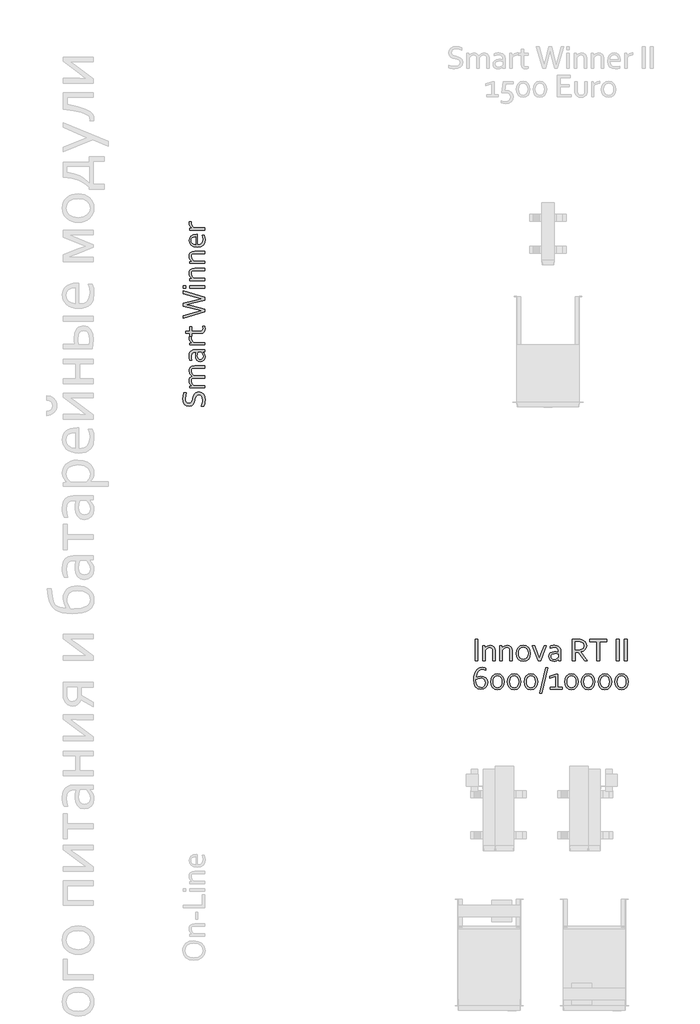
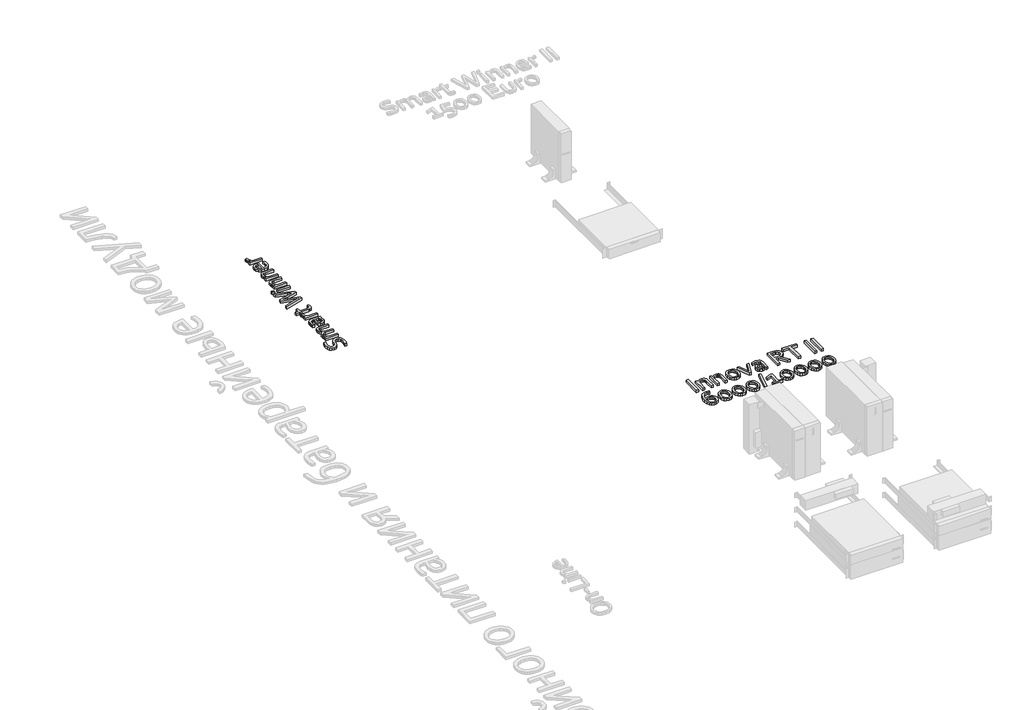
# One storey, part 4 of 10: 2 proxies.
"""IFC4 building model written with IfcOpenShell, lengths in millimetres."""

import ifcopenshell
import ifcopenshell.guid

model = None  # the IFC model being written
_history = None  # IfcOwnerHistory: only IFC2X3 demands one
_inside = {}  # id of a spatial element -> (the spatial element, [elements in it])
_under = {}  # id of a project, library or spatial element -> (it, [spatial elements below it])
_declared = {}  # id of a project -> (the project, [libraries it declares])
_typed = {}  # id of a type object -> (the type object, [elements of that type])
_made_of = {}  # id of a material, layer set ... -> (it, [elements and type objects made of it])


def new_model(schema):
    """Start an empty IFC model of exactly this schema.

    Asked for "IFC4X3", IfcOpenShell would pick the latest addendum, in which some entities
    have other attributes; the version numbers below select the first issue.
    IFC2X3 requires an IfcOwnerHistory on every rooted entity: one is made here for all.
    """
    global model, _history
    if schema == "IFC4X3":
        model = ifcopenshell.file(schema_version=(4, 3, 0, 0))
    else:
        model = ifcopenshell.file(schema=schema)
    _inside.clear()
    _under.clear()
    _declared.clear()
    _typed.clear()
    _made_of.clear()
    _history = None
    if model.schema == "IFC2X3":
        org = make("IfcOrganization", Name="unknown")
        user = make(
            "IfcPersonAndOrganization",
            ThePerson=make("IfcPerson", FamilyName="unknown"),
            TheOrganization=org,
        )
        app = make(
            "IfcApplication",
            ApplicationDeveloper=org,
            Version="unknown",
            ApplicationFullName="unknown",
            ApplicationIdentifier="unknown",
        )
        _history = make(
            "IfcOwnerHistory",
            OwningUser=user,
            OwningApplication=app,
            ChangeAction="ADDED",
            CreationDate=0,
        )
    return model


def make(cls, **values):
    """One entity of the class cls with the attributes given. An attribute that is None is left unset."""
    return model.create_entity(
        cls, **{name: value for name, value in values.items() if value is not None}
    )


def rooted(cls, **values):
    """An entity with a GlobalId (a new one), such as an element, a storey or a relation."""
    return make(cls, GlobalId=ifcopenshell.guid.new(), OwnerHistory=_history, **values)


def si_unit(unit_type, name, prefix=None):
    """IfcSIUnit, for example si_unit("LENGTHUNIT", "METRE", prefix="MILLI")."""
    return make("IfcSIUnit", UnitType=unit_type, Prefix=prefix, Name=name)


def assignment(units):
    """IfcUnitAssignment: the units of a project."""
    return None if units is None else make("IfcUnitAssignment", Units=units)


def point(xyz):
    """IfcCartesianPoint."""
    return None if xyz is None else make("IfcCartesianPoint", Coordinates=xyz)


def direction(xyz):
    """IfcDirection."""
    return None if xyz is None else make("IfcDirection", DirectionRatios=xyz)


def frame(location, z_axis=None, x_axis=None):
    """IfcAxis2Placement3D, a coordinate frame: its origin and axes. An axis left out is left unset."""
    return make(
        "IfcAxis2Placement3D",
        Location=point(location),
        Axis=direction(z_axis),
        RefDirection=direction(x_axis),
    )


def origin():
    """The frame at (0, 0, 0) with its axes left unset."""
    return frame((0.0, 0.0, 0.0))


def origin_with_axes():
    """The frame at (0, 0, 0) with the z axis (0, 0, 1) and the x axis (1, 0, 0) written out."""
    return frame((0.0, 0.0, 0.0), z_axis=(0.0, 0.0, 1.0), x_axis=(1.0, 0.0, 0.0))


def place(relative_to, where):
    """IfcLocalPlacement: puts the frame where relative to a parent placement (None: the world)."""
    return make(
        "IfcLocalPlacement", PlacementRelTo=relative_to, RelativePlacement=where
    )


def context(
    kind, dimensions, precision=None, world=None, true_north=None, identifier=None
):
    """IfcGeometricRepresentationContext, for example the 3D "Model" context."""
    return make(
        "IfcGeometricRepresentationContext",
        ContextIdentifier=identifier,
        ContextType=kind,
        CoordinateSpaceDimension=dimensions,
        Precision=precision,
        WorldCoordinateSystem=world,
        TrueNorth=true_north,
    )


def project(units=None, contexts=None):
    """IfcProject with its units and contexts."""
    return rooted(
        "IfcProject",
        Name="project",
        RepresentationContexts=contexts,
        UnitsInContext=assignment(units),
    )


def spatial(cls, under=None, at=None, **own):
    """A site, building, storey or space (cls), placed at a placement, below another one or the project."""
    s = rooted(cls, ObjectPlacement=at, **own)
    if under is not None:
        _under.setdefault(under.id(), (under, []))[1].append(s)
    return s


def polyline(points):
    """IfcPolyline through the points."""
    return make("IfcPolyline", Points=[point(p) for p in points])


def outline(outer, holes=None, kind="AREA"):
    """IfcArbitraryClosedProfileDef: a profile drawn as a closed curve; with holes, ...WithVoids."""
    if holes is None:
        return make("IfcArbitraryClosedProfileDef", ProfileType=kind, OuterCurve=outer)
    return make(
        "IfcArbitraryProfileDefWithVoids",
        ProfileType=kind,
        OuterCurve=outer,
        InnerCurves=holes,
    )


def extrude(swept, where, along, depth):
    """IfcExtrudedAreaSolid: the profile swept, set in the frame where, extruded along a direction by depth."""
    return make(
        "IfcExtrudedAreaSolid",
        SweptArea=swept,
        Position=where,
        ExtrudedDirection=direction(along),
        Depth=depth,
    )


def shape(context_of_items, identifier, shape_type, items):
    """IfcShapeRepresentation: the items that make up one representation, for example the "Body"."""
    return make(
        "IfcShapeRepresentation",
        ContextOfItems=context_of_items,
        RepresentationIdentifier=identifier,
        RepresentationType=shape_type,
        Items=items,
    )


def made_of(thing, what):
    """Note that an element or type object is made of a material, layer set ...; save() writes the relation."""
    if what is not None:
        _made_of.setdefault(what.id(), (what, []))[1].append(thing)
    return thing


def element(
    cls,
    number,
    at=None,
    inside=None,
    cuts=None,
    type_object=None,
    material=None,
    context=None,
    identifier="Body",
    shape_type=None,
    held_by="IfcProductDefinitionShape",
    body=None,
    shapes=None,
    **own,
):
    """One element of the class cls, such as IfcWall. Its Tag is "e" and its number.

    at: its placement. inside: the storey or other place that contains it. cuts: it is an
    opening in that element (IfcRelVoidsElement). A single representation is given by context,
    identifier, shape_type and body (its items); several are given by shapes. held_by: the class
    of the entity that holds the representations. save() writes the other relations.
    """
    e = rooted(cls, Tag="e%d" % number, ObjectPlacement=at, **own)
    if body is not None:
        shapes = [shape(context, identifier, shape_type, body)]
    if shapes is not None:
        e.Representation = make(held_by, Representations=shapes)
    if inside is not None:
        _inside.setdefault(inside.id(), (inside, []))[1].append(e)
    if cuts is not None:
        rooted(
            "IfcRelVoidsElement", RelatingBuildingElement=cuts, RelatedOpeningElement=e
        )
    if type_object is not None:
        _typed.setdefault(type_object.id(), (type_object, []))[1].append(e)
    return made_of(e, material)


def aggregate(whole, parts):
    """IfcRelAggregates: a whole, such as a stair, and the parts it consists of."""
    return rooted("IfcRelAggregates", RelatingObject=whole, RelatedObjects=parts)


def save(model, path):
    """Write the relations noted so far, then the file.

    IfcRelAggregates (storeys below a building ...), IfcRelContainedInSpatialStructure (elements
    in a storey), IfcRelDefinesByType, IfcRelAssociatesMaterial and IfcRelDeclares: one each for
    every whole, place, type object, material and project.
    """
    for whole, parts in _under.values():
        aggregate(whole, parts)
    for where, things in _inside.values():
        rooted(
            "IfcRelContainedInSpatialStructure",
            RelatedElements=things,
            RelatingStructure=where,
        )
    for kind, things in _typed.values():
        rooted("IfcRelDefinesByType", RelatedObjects=things, RelatingType=kind)
    for what, things in _made_of.values():
        rooted("IfcRelAssociatesMaterial", RelatedObjects=things, RelatingMaterial=what)
    for by, libraries in _declared.values():
        rooted("IfcRelDeclares", RelatingContext=by, RelatedDefinitions=libraries)
    model.write(path)


model = new_model("IFC4")

# Units and contexts
model_context = context("Model", 3, world=origin())
ifc_project = project(units=[si_unit("LENGTHUNIT", "METRE", prefix="MILLI")], contexts=[model_context])

# Site, building, storey
site = spatial("IfcSite", under=ifc_project)
building = spatial("IfcBuilding", under=site)
storey = spatial("IfcBuildingStorey", under=building, Name="Этаж 01", Elevation=0.0)

# Proxies
placement = place(None, origin())
element("IfcBuildingElementProxy", 1, Name="150 мм Corbel", ObjectType="150 мм Corbel", at=placement, inside=storey, context=model_context, shape_type="SweptSolid", body=[
    extrude(outline(polyline([(2416.0252514, -1532.6838403), (2427.0284704, -1529.9494419), (2434.2035317, -1522.6212543), (2438.8410714, -1511.9461631), (2442.2317253, -1499.2585547), (2446.9786409, -1481.7802804), (2454.1537022, -1466.4895247), (2466.0756791, -1455.639432), (2484.9320902, -1451.4831465), (2505.1885132, -1455.9675598), (2519.210508, -1468.3489156), (2527.3480776, -1486.8990741), (2529.9949752, -1510.2398985), (2529.273094, -1522.1618754), (2527.3262024, -1533.82135), (2524.5261784, -1543.8620608), (2521.4199019, -1550.9277462), (2504.7947599, -1550.9277462), (2508.2291642, -1541.8495436), (2510.8760618, -1531.4150795), (2512.5823264, -1520.5431116), (2513.1948316, -1510.2398985), (2511.8604452, -1495.2553955), (2507.3979071, -1482.7646638), (2498.8884594, -1474.2333409), (2485.3695939, -1471.083314), (2474.1913734, -1473.8833379), (2466.9069362, -1481.3427766), (2462.2256462, -1492.1053686), (2458.813117, -1504.9461033), (2454.2630781, -1522.3587521), (2447.1973928, -1537.5182566), (2435.5597933, -1548.2370982), (2417.381513, -1552.2840078), (2397.5625937, -1548.0402215), (2383.8249763, -1536.5557484), (2375.7967827, -1519.9962319), (2373.1936355, -1500.1335622), (2375.4905301, -1477.7771212), (2381.4624561, -1458.789459), (2398.3938508, -1458.789459), (2392.4000496, -1478.0177482), (2389.993779, -1499.2585547), (2391.8312947, -1514.0680562), (2397.0594644, -1524.4806452), (2405.2845347, -1530.6494479), (2416.0252514, -1532.6838403)])), origin_with_axes(), (0.0, 0.0, 1.0), 20.0),
    extrude(outline(polyline([(2527.1949512, -1336.6821657), (2527.1949512, -1353.4823092), (2458.113111, -1353.4823092), (2446.1911342, -1355.0135723), (2438.097315, -1359.4761104), (2433.4597754, -1366.4542951), (2431.9941379, -1375.5324976), (2437.2223075, -1392.7482697), (2451.5943053, -1406.6827638), (2527.1949512, -1406.6827638), (2527.1949512, -1423.4829073), (2420.7940422, -1423.4829073), (2420.7940422, -1410.0515425), (2435.5816685, -1406.7265141), (2428.7128598, -1400.0327069), (2423.0909368, -1392.4420171), (2419.3284047, -1383.2325634), (2417.9940183, -1372.2512196), (2419.4213742, -1361.4011269), (2423.703442, -1352.5635514), (2439.2566999, -1340.4884482), (2423.6378165, -1323.7976806), (2417.9940183, -1302.5131238), (2419.5690317, -1290.5692717), (2425.3440811, -1278.9754227), (2436.9379301, -1270.1815975), (2455.9693427, -1266.6815676), (2527.1949512, -1266.6815676), (2527.1949512, -1283.4817112), (2458.113111, -1283.4817112), (2446.1911342, -1285.0129742), (2438.097315, -1289.4536372), (2433.4597754, -1296.4099466), (2431.9941379, -1305.4881492), (2437.2223075, -1322.7257965), (2451.5943053, -1336.6821657), (2527.1949512, -1336.6821657)])), origin_with_axes(), (0.0, 0.0, 1.0), 20.0),
    extrude(outline(polyline([(2515.4261007, -1170.9557498), (2520.7417711, -1176.7526743), (2525.4668115, -1184.1683626), (2528.7699647, -1193.3559411), (2529.9949752, -1203.987282), (2527.7418309, -1218.0092768), (2521.1136493, -1228.9687454), (2510.4604333, -1236.1219315), (2496.2196866, -1238.6813284), (2482.219567, -1235.8375541), (2471.7413525, -1227.8749861), (2465.1131708, -1215.5592558), (2462.794401, -1199.655995), (2464.2819137, -1184.4089897), (2467.6506925, -1171.918258), (2460.0381275, -1171.4807542), (2451.7036813, -1172.0495091), (2445.3380019, -1173.9745255), (2435.7785452, -1183.2496048), (2431.9941379, -1200.5310024), (2433.4816506, -1215.7342573), (2437.5941857, -1229.8875033), (2423.9003187, -1229.8875033), (2421.5159233, -1223.5655742), (2419.6127821, -1215.8873836), (2418.4096468, -1207.3779359), (2417.9940183, -1198.3872341), (2419.4213742, -1183.7527341), (2423.703442, -1172.1370098), (2430.3370925, -1163.4744358), (2438.8191962, -1157.6993865), (2446.7161387, -1155.3806167), (2456.1880946, -1154.6806107), (2527.1949512, -1154.6806107), (2527.1949512, -1169.0744837), (2515.4261007, -1170.9557498)]), holes=[polyline([(2480.7758047, -1171.4807542), (2478.1726574, -1183.0964785), (2476.7945206, -1197.8622296), (2481.5633114, -1215.5155055), (2487.6118006, -1220.289765), (2496.2196866, -1221.8811849), (2504.9697614, -1220.2842962), (2511.1604393, -1215.9092588), (2514.7917203, -1209.3248276), (2515.9948556, -1201.187258), (2514.3542165, -1190.5996676), (2510.4385581, -1181.8933432), (2505.8885192, -1175.4182879), (2502.3447389, -1171.4807542), (2480.7758047, -1171.4807542)])]), origin_with_axes(), (0.0, 0.0, 1.0), 20.0),
    extrude(outline(polyline([(2431.9941379, -1063.2860798), (2433.1535228, -1076.7174446), (2436.6754279, -1087.8737899), (2442.5161028, -1097.2801203), (2450.7192979, -1104.2801801), (2527.1949512, -1104.2801801), (2527.1949512, -1121.0803236), (2420.7940422, -1121.0803236), (2420.7940422, -1108.0864626), (2437.7254368, -1104.8489349), (2429.9816207, -1098.1988781), (2423.703442, -1089.7331808), (2419.5034062, -1079.4080926), (2417.9940183, -1067.6173668), (2418.0377686, -1065.3423474), (2418.1690198, -1063.2860798), (2431.9941379, -1063.2860798)])), origin_with_axes(), (0.0, 0.0, 1.0), 20.0),
    extrude(outline(polyline([(2527.5887046, -989.6979511), (2529.1637181, -996.5230094), (2529.9949752, -1007.5043533), (2527.8949572, -1021.985727), (2521.901156, -1032.0264378), (2512.4729505, -1037.9327382), (2500.1572202, -1039.8796299), (2434.7941618, -1039.8796299), (2434.7941618, -1060.3985552), (2420.7940422, -1060.3985552), (2420.7940422, -1039.8796299), (2392.7938029, -1039.8796299), (2392.7938029, -1023.0794863), (2420.7940422, -1023.0794863), (2420.7940422, -991.2729646), (2434.7941618, -991.2729646), (2434.7941618, -1023.0794863), (2498.4072053, -1023.0794863), (2505.4291403, -1022.0294774), (2511.0073129, -1018.6825738), (2514.6823443, -1012.7981485), (2515.9948556, -1004.1355745), (2515.4261007, -996.8073869), (2513.9823384, -989.6979511), (2527.5887046, -989.6979511)])), origin_with_axes(), (0.0, 0.0, 1.0), 20.0),
    extrude(outline(polyline([(2400.9751228, -836.9216458), (2437.3754338, -845.5842198), (2527.1949512, -869.0344202), (2527.1949512, -887.7595802), (2375.9936594, -933.4787208), (2375.9936594, -913.8785533), (2464.7194175, -889.2033425), (2503.1322457, -879.1845069), (2482.6789459, -873.9125869), (2464.9381693, -869.2969224), (2375.9936594, -846.6779792), (2375.9936594, -827.0778117), (2464.9381693, -805.0276233), (2503.1322457, -795.8400448), (2464.7194175, -785.1212033), (2375.9936594, -759.8772376), (2375.9936594, -740.2770701), (2527.1949512, -786.6962167), (2527.1949512, -805.4213767), (2437.3754338, -828.3903229), (2400.9751228, -836.9216458)])), origin_with_axes(), (0.0, 0.0, 1.0), 20.0),
    extrude(outline(polyline([(2395.5938269, -720.6769027), (2375.9936594, -720.6769027), (2375.9936594, -703.8767591), (2395.5938269, -703.8767591), (2395.5938269, -720.6769027)])), origin_with_axes(), (0.0, 0.0, 1.0), 20.0),
    extrude(outline(polyline([(2527.1949512, -720.6769027), (2420.7940422, -720.6769027), (2420.7940422, -703.8767591), (2527.1949512, -703.8767591), (2527.1949512, -720.6769027)])), origin_with_axes(), (0.0, 0.0, 1.0), 20.0),
    extrude(outline(polyline([(2435.5816685, -650.7638053), (2428.7128598, -644.0481229), (2423.0909368, -636.1949309), (2419.3284047, -626.6792246), (2417.9940183, -615.4135033), (2420.0065355, -601.807137), (2426.503466, -590.803918), (2438.2066909, -583.4101049), (2455.9693427, -580.6757065), (2527.1949512, -580.6757065), (2527.1949512, -597.47585), (2458.113111, -597.47585), (2446.1528526, -598.821174), (2438.097315, -602.857146), (2433.5199322, -609.4634525), (2431.9941379, -618.5197798), (2437.2223075, -636.0636797), (2451.5943053, -650.6763046), (2527.1949512, -650.6763046), (2527.1949512, -667.4764481), (2420.7940422, -667.4764481), (2420.7940422, -654.1325841), (2435.5816685, -650.7638053)])), origin_with_axes(), (0.0, 0.0, 1.0), 20.0),
    extrude(outline(polyline([(2435.5816685, -530.3627766), (2428.7128598, -523.6470943), (2423.0909368, -515.7939022), (2419.3284047, -506.2781959), (2417.9940183, -495.0124746), (2420.0065355, -481.4061084), (2426.503466, -470.4028894), (2438.2066909, -463.0090762), (2455.9693427, -460.2746778), (2527.1949512, -460.2746778), (2527.1949512, -477.0748214), (2458.113111, -477.0748214), (2446.1528526, -478.4201454), (2438.097315, -482.4561173), (2433.5199322, -489.0624238), (2431.9941379, -498.1187512), (2437.2223075, -515.662651), (2451.5943053, -530.2752759), (2527.1949512, -530.2752759), (2527.1949512, -547.0754194), (2420.7940422, -547.0754194), (2420.7940422, -533.7315554), (2435.5816685, -530.3627766)])), origin_with_axes(), (0.0, 0.0, 1.0), 20.0),
    extrude(outline(polyline([(2515.9948556, -376.9302157), (2514.529218, -361.158206), (2510.3948077, -346.9612097), (2524.2199258, -346.9612097), (2528.4418369, -361.0925804), (2529.9949752, -379.1614848), (2527.0855753, -400.6210431), (2517.6792449, -417.6399386), (2500.7040999, -428.4462809), (2475.438259, -432.2744386), (2450.1942934, -428.2931546), (2432.3441409, -417.7055641), (2421.5815489, -402.480434), (2417.9940183, -384.4990304), (2420.9252933, -368.0051395), (2430.1566222, -354.7050259), (2446.409886, -345.8018248), (2470.2757149, -342.5424219), (2472.5288592, -342.5424219), (2476.7945206, -342.6736731), (2476.7945206, -416.3930529), (2494.9946761, -413.3086516), (2507.1135297, -404.8867046), (2513.8729624, -392.3740977), (2515.9948556, -376.9302157)]), holes=[polyline([(2431.9941379, -385.2427868), (2434.4222836, -396.7491351), (2441.0285901, -406.0242143), (2450.8067986, -412.4555193), (2462.794401, -415.4742951), (2462.794401, -359.4738166), (2450.6974227, -361.158206), (2440.9192141, -366.1238734), (2434.3785332, -374.1739422), (2431.9941379, -385.2427868)])]), origin_with_axes(), (0.0, 0.0, 1.0), 20.0),
    extrude(outline(polyline([(2431.9941379, -254.0791661), (2433.1535228, -267.5105309), (2436.6754279, -278.6668762), (2442.5161028, -288.0732066), (2450.7192979, -295.0732664), (2527.1949512, -295.0732664), (2527.1949512, -311.8734099), (2420.7940422, -311.8734099), (2420.7940422, -298.8795489), (2437.7254368, -295.6420212), (2429.9816207, -288.9919644), (2423.703442, -280.5262671), (2419.5034062, -270.2011789), (2417.9940183, -258.4104531), (2418.0377686, -256.1354337), (2418.1690198, -254.0791661), (2431.9941379, -254.0791661)])), origin_with_axes(), (0.0, 0.0, 1.0), 20.0),
])
element("IfcBuildingElementProxy", 2, Name="150 мм Corbel", ObjectType="150 мм Corbel", at=placement, inside=storey, context=model_context, shape_type="SweptSolid", body=[
    extrude(outline(polyline([(4431.4959486, -3344.4864996), (4431.4959486, -3193.2852077), (4451.096116, -3193.2852077), (4451.096116, -3344.4864996), (4431.4959486, -3344.4864996)])), origin_with_axes(), (0.0, 0.0, 1.0), 20.0),
    extrude(outline(polyline([(4501.4090459, -3252.8732169), (4508.1247283, -3246.0044082), (4515.9779204, -3240.3824851), (4525.4936267, -3236.619953), (4536.7593479, -3235.2855666), (4550.3657142, -3237.2980838), (4561.3689332, -3243.7950143), (4568.7627464, -3255.4982393), (4571.4971447, -3273.260891), (4571.4971447, -3344.4864996), (4554.6970012, -3344.4864996), (4554.6970012, -3275.4046594), (4553.3516772, -3263.4444009), (4549.3157052, -3255.3888633), (4542.7093988, -3250.8114805), (4533.6530714, -3249.2856862), (4516.1091715, -3254.5138559), (4501.4965467, -3268.8858537), (4501.4965467, -3344.4864996), (4484.6964031, -3344.4864996), (4484.6964031, -3238.0855905), (4498.0402671, -3238.0855905), (4501.4090459, -3252.8732169)])), origin_with_axes(), (0.0, 0.0, 1.0), 20.0),
    extrude(outline(polyline([(4621.8100746, -3252.8732169), (4628.525757, -3246.0044082), (4636.3789491, -3240.3824851), (4645.8946554, -3236.619953), (4657.1603766, -3235.2855666), (4670.7667429, -3237.2980838), (4681.7699619, -3243.7950143), (4689.163775, -3255.4982393), (4691.8981734, -3273.260891), (4691.8981734, -3344.4864996), (4675.0980299, -3344.4864996), (4675.0980299, -3275.4046594), (4673.7527059, -3263.4444009), (4669.7167339, -3255.3888633), (4663.1104275, -3250.8114805), (4654.0541001, -3249.2856862), (4636.5102002, -3254.5138559), (4621.8975753, -3268.8858537), (4621.8975753, -3344.4864996), (4605.0974318, -3344.4864996), (4605.0974318, -3238.0855905), (4618.4412958, -3238.0855905), (4621.8100746, -3252.8732169)])), origin_with_axes(), (0.0, 0.0, 1.0), 20.0),
    extrude(outline(polyline([(4820.6992739, -3291.4172962), (4817.1336184, -3314.2331161), (4807.0272821, -3331.8863919), (4791.2115219, -3343.2614891), (4770.4300944, -3347.2865235), (4749.2330383, -3343.2614891), (4733.3516526, -3331.8863919), (4723.3546922, -3314.2331161), (4719.8984126, -3291.4172962), (4723.4640681, -3268.4264747), (4733.5704045, -3250.7294485), (4749.4517901, -3239.310601), (4770.2988433, -3235.2855666), (4791.4083986, -3239.310601), (4807.2897843, -3250.7294485), (4817.2429943, -3268.4264747), (4820.6992739, -3291.4172962)]), holes=[polyline([(4803.8991303, -3291.4172962), (4801.405359, -3273.5452685), (4794.4271744, -3260.3107804), (4783.7739584, -3252.0857101), (4770.2988433, -3249.2856862), (4756.8237281, -3252.0857101), (4746.1705121, -3260.3107804), (4739.1923275, -3273.5452685), (4736.6985562, -3291.4172962), (4739.1923275, -3309.1580727), (4746.2361377, -3322.3269353), (4756.9331041, -3330.48638), (4770.4300944, -3333.2864039), (4783.8395839, -3330.48638), (4794.4271744, -3322.3269353), (4801.405359, -3309.1580727), (4803.8991303, -3291.4172962)])]), origin_with_axes(), (0.0, 0.0, 1.0), 20.0),
    extrude(outline(polyline([(4883.6123114, -3326.8988493), (4894.3749033, -3297.2360959), (4915.9000872, -3238.0855905), (4932.7002308, -3238.0855905), (4892.6686388, -3344.4864996), (4874.7309855, -3344.4864996), (4834.6993935, -3238.0855905), (4851.499537, -3238.0855905), (4872.8934698, -3297.2360959), (4883.6123114, -3326.8988493)])), origin_with_axes(), (0.0, 0.0, 1.0), 20.0),
    extrude(outline(polyline([(5017.225953, -3332.717649), (5011.4290284, -3338.0333194), (5004.0133401, -3342.7583598), (4994.8257616, -3346.061513), (4984.1944207, -3347.2865235), (4970.1724259, -3345.0333793), (4959.2129573, -3338.4051976), (4952.0597712, -3327.7519816), (4949.5003743, -3313.5112349), (4952.3441486, -3299.5111153), (4960.3067166, -3289.0329008), (4972.6224469, -3282.4047192), (4988.5257077, -3280.0859494), (5003.772713, -3281.5734621), (5016.2634447, -3284.9422408), (5016.7009485, -3277.3296758), (5016.1321936, -3268.9952296), (5014.2071772, -3262.6295502), (5004.9320979, -3253.0700935), (4987.6507003, -3249.2856862), (4972.4474454, -3250.7731989), (4958.2941995, -3254.885734), (4958.2941995, -3241.1918671), (4964.6161285, -3238.8074717), (4972.2943191, -3236.9043304), (4980.8037668, -3235.7011951), (4989.7944686, -3235.2855666), (5004.4289686, -3236.7129225), (5016.0446929, -3240.9949904), (5024.7072669, -3247.6286408), (5030.4823162, -3256.1107445), (5032.801086, -3264.007687), (5033.501092, -3273.4796429), (5033.501092, -3344.4864996), (5019.107219, -3344.4864996), (5017.225953, -3332.717649)]), holes=[polyline([(5016.7009485, -3298.067353), (5005.0852242, -3295.4642057), (4990.3194731, -3294.086069), (4972.6661972, -3298.8548597), (4967.8919377, -3304.9033489), (4966.3005179, -3313.5112349), (4967.8974065, -3322.2613097), (4972.2724439, -3328.4519876), (4978.8568751, -3332.0832686), (4986.9944447, -3333.2864039), (4997.5820351, -3331.6457649), (5006.2883595, -3327.7301064), (5012.7634148, -3323.1800675), (5016.7009485, -3319.6362873), (5016.7009485, -3298.067353)])]), origin_with_axes(), (0.0, 0.0, 1.0), 20.0),
    extrude(outline(polyline([(5134.3019532, -3282.8859733), (5134.3019532, -3344.4864996), (5114.7017858, -3344.4864996), (5114.7017858, -3193.2852077), (5153.6833688, -3193.2852077), (5170.4835124, -3194.0289641), (5183.1273704, -3196.3914843), (5197.0181141, -3202.2540344), (5207.190076, -3211.1791106), (5213.4245042, -3222.9370236), (5215.502647, -3237.2980838), (5212.5932471, -3253.8794755), (5204.4119272, -3266.5670839), (5191.7899444, -3275.360909), (5175.471055, -3280.392202), (5221.1026948, -3344.4864996), (5201.5025274, -3344.4864996), (5156.045889, -3282.8859733), (5134.3019532, -3282.8859733)]), holes=[polyline([(5134.3019532, -3210.0853513), (5134.3019532, -3266.0858297), (5151.9771042, -3266.0858297), (5166.0209742, -3265.5170749), (5176.4773136, -3263.4608073), (5190.8493114, -3253.9669762), (5195.9024795, -3236.9480808), (5191.0680632, -3221.1104455), (5178.0085767, -3212.4916218), (5168.5803711, -3210.6541061), (5154.6021267, -3210.0853513), (5134.3019532, -3210.0853513)])]), origin_with_axes(), (0.0, 0.0, 1.0), 20.0),
    extrude(outline(polyline([(5307.9034365, -3344.4864996), (5288.303269, -3344.4864996), (5288.303269, -3210.0853513), (5238.209091, -3210.0853513), (5238.209091, -3193.2852077), (5357.9976144, -3193.2852077), (5357.9976144, -3210.0853513), (5307.9034365, -3210.0853513), (5307.9034365, -3344.4864996)])), origin_with_axes(), (0.0, 0.0, 1.0), 20.0),
    extrude(outline(polyline([(5425.5044412, -3344.4864996), (5425.5044412, -3193.2852077), (5445.1046087, -3193.2852077), (5445.1046087, -3344.4864996), (5425.5044412, -3344.4864996)])), origin_with_axes(), (0.0, 0.0, 1.0), 20.0),
    extrude(outline(polyline([(5481.5049197, -3344.4864996), (5481.5049197, -3193.2852077), (5501.1050871, -3193.2852077), (5501.1050871, -3344.4864996), (5481.5049197, -3344.4864996)])), origin_with_axes(), (0.0, 0.0, 1.0), 20.0),
    extrude(outline(polyline([(4470.871285, -3452.4861407), (4489.8808224, -3455.329915), (4504.930951, -3463.7299868), (4514.7747851, -3477.445729), (4518.2966902, -3496.2802649), (4515.0591625, -3515.9241827), (4505.6965825, -3531.2805639), (4490.7339547, -3541.2775244), (4470.6525331, -3544.8869302), (4449.3898515, -3540.2275154), (4433.5740913, -3526.9055266), (4423.708382, -3505.9272223), (4420.2958529, -3478.2988613), (4422.0021175, -3455.5267917), (4427.099036, -3434.7672394), (4435.520983, -3417.0045876), (4447.6179613, -3403.1357191), (4463.4337215, -3394.1012669), (4482.5088844, -3390.8856144), (4497.1871348, -3392.5481286), (4507.4903479, -3396.0919089), (4507.4903479, -3410.4857819), (4496.7496311, -3406.6138738), (4483.7338949, -3404.885734), (4468.1150114, -3408.2107625), (4454.3773941, -3418.4702251), (4443.8773044, -3436.0797506), (4437.8835032, -3461.3237162), (4454.2023926, -3454.8924113), (4470.871285, -3452.4861407)]), holes=[polyline([(4471.4400399, -3530.8868106), (4483.2526408, -3528.6992919), (4492.7902223, -3522.2679869), (4499.1777768, -3511.7678972), (4501.4965467, -3497.461525), (4499.0465257, -3482.9582761), (4492.3745937, -3473.355069), (4482.4870092, -3468.083149), (4470.3900309, -3466.4862604), (4453.086758, -3469.3519098), (4437.0959964, -3476.3738448), (4439.5241422, -3500.4146752), (4446.6335779, -3517.4554458), (4457.5492962, -3527.5617822), (4471.4400399, -3530.8868106)])]), origin_with_axes(), (0.0, 0.0, 1.0), 20.0),
    extrude(outline(polyline([(4635.897695, -3491.8177268), (4632.6820425, -3513.9116655), (4623.3413377, -3531.6524421), (4608.4443354, -3543.4212927), (4588.384789, -3547.6869541), (4567.9314893, -3543.4212927), (4552.9688614, -3531.6524421), (4543.8031581, -3513.9116655), (4540.6968816, -3491.8177268), (4543.912534, -3469.5706617), (4553.2532389, -3451.7642596), (4568.2158667, -3439.9516586), (4588.2972883, -3435.6859972), (4608.6630873, -3439.9516586), (4623.6257151, -3451.7642596), (4632.7914184, -3469.5706617), (4635.897695, -3491.8177268)]), holes=[polyline([(4619.0975514, -3491.8177268), (4616.9100327, -3474.164451), (4610.7193548, -3460.9299629), (4601.0505222, -3452.5955167), (4588.2972883, -3449.6861168), (4575.5440543, -3452.5955167), (4565.8314713, -3460.9299629), (4559.6407934, -3474.164451), (4557.4970251, -3491.8177268), (4559.6845438, -3509.3178763), (4565.8752217, -3522.508614), (4575.6096799, -3530.7774346), (4588.4285394, -3533.6868345), (4601.1598982, -3530.7774346), (4610.8287308, -3522.508614), (4616.9537831, -3509.3178763), (4619.0975514, -3491.8177268)])]), origin_with_axes(), (0.0, 0.0, 1.0), 20.0),
    extrude(outline(polyline([(4753.4986997, -3491.8177268), (4750.2830472, -3513.9116655), (4740.9423424, -3531.6524421), (4726.0453402, -3543.4212927), (4705.9857938, -3547.6869541), (4685.532494, -3543.4212927), (4670.5698662, -3531.6524421), (4661.4041629, -3513.9116655), (4658.2978863, -3491.8177268), (4661.5135388, -3469.5706617), (4670.8542436, -3451.7642596), (4685.8168715, -3439.9516586), (4705.898293, -3435.6859972), (4726.264092, -3439.9516586), (4741.2267199, -3451.7642596), (4750.3924232, -3469.5706617), (4753.4986997, -3491.8177268)]), holes=[polyline([(4736.6985562, -3491.8177268), (4734.5110375, -3474.164451), (4728.3203596, -3460.9299629), (4718.651527, -3452.5955167), (4705.898293, -3449.6861168), (4693.1450591, -3452.5955167), (4683.4324761, -3460.9299629), (4677.2417982, -3474.164451), (4675.0980299, -3491.8177268), (4677.2855486, -3509.3178763), (4683.4762265, -3522.508614), (4693.2106846, -3530.7774346), (4706.0295441, -3533.6868345), (4718.7609029, -3530.7774346), (4728.4297355, -3522.508614), (4734.5547879, -3509.3178763), (4736.6985562, -3491.8177268)])]), origin_with_axes(), (0.0, 0.0, 1.0), 20.0),
    extrude(outline(polyline([(4871.0997045, -3491.8177268), (4867.884052, -3513.9116655), (4858.5433472, -3531.6524421), (4843.6463449, -3543.4212927), (4823.5867985, -3547.6869541), (4803.1334988, -3543.4212927), (4788.1708709, -3531.6524421), (4779.0051676, -3513.9116655), (4775.8988911, -3491.8177268), (4779.1145436, -3469.5706617), (4788.4552484, -3451.7642596), (4803.4178762, -3439.9516586), (4823.4992978, -3435.6859972), (4843.8650968, -3439.9516586), (4858.8277246, -3451.7642596), (4867.9934279, -3469.5706617), (4871.0997045, -3491.8177268)]), holes=[polyline([(4854.2995609, -3491.8177268), (4852.1120423, -3474.164451), (4845.9213644, -3460.9299629), (4836.2525318, -3452.5955167), (4823.4992978, -3449.6861168), (4810.7460638, -3452.5955167), (4801.0334808, -3460.9299629), (4794.842803, -3474.164451), (4792.6990346, -3491.8177268), (4794.8865533, -3509.3178763), (4801.0772312, -3522.508614), (4810.8116894, -3530.7774346), (4823.6305489, -3533.6868345), (4836.3619077, -3530.7774346), (4846.0307403, -3522.508614), (4852.1557926, -3509.3178763), (4854.2995609, -3491.8177268)])]), origin_with_axes(), (0.0, 0.0, 1.0), 20.0),
    extrude(outline(polyline([(4884.3123174, -3572.8871694), (4926.9251814, -3393.6856384), (4943.5065731, -3393.6856384), (4900.893709, -3572.8871694), (4884.3123174, -3572.8871694)])), origin_with_axes(), (0.0, 0.0, 1.0), 20.0),
    extrude(outline(polyline([(4997.100781, -3530.8868106), (4997.100781, -3452.4861407), (4956.6316852, -3466.4862604), (4956.6316852, -3452.4861407), (4999.3758004, -3438.4860211), (5013.9009245, -3438.4860211), (5013.9009245, -3530.8868106), (5043.2574254, -3530.8868106), (5043.2574254, -3544.8869302), (4961.3129752, -3544.8869302), (4961.3129752, -3530.8868106), (4997.100781, -3530.8868106)])), origin_with_axes(), (0.0, 0.0, 1.0), 20.0),
    extrude(outline(polyline([(5156.7021446, -3491.8177268), (5153.4864921, -3513.9116655), (5144.1457873, -3531.6524421), (5129.2487851, -3543.4212927), (5109.1892387, -3547.6869541), (5088.7359389, -3543.4212927), (5073.7733111, -3531.6524421), (5064.6076078, -3513.9116655), (5061.5013312, -3491.8177268), (5064.7169837, -3469.5706617), (5074.0576885, -3451.7642596), (5089.0203164, -3439.9516586), (5109.1017379, -3435.6859972), (5129.4675369, -3439.9516586), (5144.4301648, -3451.7642596), (5153.5958681, -3469.5706617), (5156.7021446, -3491.8177268)]), holes=[polyline([(5139.9020011, -3491.8177268), (5137.7144824, -3474.164451), (5131.5238045, -3460.9299629), (5121.8549719, -3452.5955167), (5109.1017379, -3449.6861168), (5096.348504, -3452.5955167), (5086.635921, -3460.9299629), (5080.4452431, -3474.164451), (5078.3014748, -3491.8177268), (5080.4889935, -3509.3178763), (5086.6796714, -3522.508614), (5096.4141295, -3530.7774346), (5109.232989, -3533.6868345), (5121.9643478, -3530.7774346), (5131.6331804, -3522.508614), (5137.7582328, -3509.3178763), (5139.9020011, -3491.8177268)])]), origin_with_axes(), (0.0, 0.0, 1.0), 20.0),
    extrude(outline(polyline([(5274.3031494, -3491.8177268), (5271.0874969, -3513.9116655), (5261.7467921, -3531.6524421), (5246.8497898, -3543.4212927), (5226.7902434, -3547.6869541), (5206.3369437, -3543.4212927), (5191.3743158, -3531.6524421), (5182.2086125, -3513.9116655), (5179.102336, -3491.8177268), (5182.3179885, -3469.5706617), (5191.6586933, -3451.7642596), (5206.6213211, -3439.9516586), (5226.7027427, -3435.6859972), (5247.0685417, -3439.9516586), (5262.0311695, -3451.7642596), (5271.1968728, -3469.5706617), (5274.3031494, -3491.8177268)]), holes=[polyline([(5257.5030058, -3491.8177268), (5255.3154872, -3474.164451), (5249.1248093, -3460.9299629), (5239.4559766, -3452.5955167), (5226.7027427, -3449.6861168), (5213.9495087, -3452.5955167), (5204.2369257, -3460.9299629), (5198.0462479, -3474.164451), (5195.9024795, -3491.8177268), (5198.0899982, -3509.3178763), (5204.2806761, -3522.508614), (5214.0151343, -3530.7774346), (5226.8339938, -3533.6868345), (5239.5653526, -3530.7774346), (5249.2341852, -3522.508614), (5255.3592375, -3509.3178763), (5257.5030058, -3491.8177268)])]), origin_with_axes(), (0.0, 0.0, 1.0), 20.0),
    extrude(outline(polyline([(5391.9041541, -3491.8177268), (5388.6885017, -3513.9116655), (5379.3477969, -3531.6524421), (5364.4507946, -3543.4212927), (5344.3912482, -3547.6869541), (5323.9379484, -3543.4212927), (5308.9753206, -3531.6524421), (5299.8096173, -3513.9116655), (5296.7033408, -3491.8177268), (5299.9189932, -3469.5706617), (5309.259698, -3451.7642596), (5324.2223259, -3439.9516586), (5344.3037475, -3435.6859972), (5364.6695465, -3439.9516586), (5379.6321743, -3451.7642596), (5388.7978776, -3469.5706617), (5391.9041541, -3491.8177268)]), holes=[polyline([(5375.1040106, -3491.8177268), (5372.9164919, -3474.164451), (5366.725814, -3460.9299629), (5357.0569814, -3452.5955167), (5344.3037475, -3449.6861168), (5331.5505135, -3452.5955167), (5321.8379305, -3460.9299629), (5315.6472526, -3474.164451), (5313.5034843, -3491.8177268), (5315.691003, -3509.3178763), (5321.8816809, -3522.508614), (5331.616139, -3530.7774346), (5344.4349986, -3533.6868345), (5357.1663573, -3530.7774346), (5366.83519, -3522.508614), (5372.9602423, -3509.3178763), (5375.1040106, -3491.8177268)])]), origin_with_axes(), (0.0, 0.0, 1.0), 20.0),
    extrude(outline(polyline([(5509.5051589, -3491.8177268), (5506.2895064, -3513.9116655), (5496.9488016, -3531.6524421), (5482.0517993, -3543.4212927), (5461.992253, -3547.6869541), (5441.5389532, -3543.4212927), (5426.5763254, -3531.6524421), (5417.4106221, -3513.9116655), (5414.3043455, -3491.8177268), (5417.519998, -3469.5706617), (5426.8607028, -3451.7642596), (5441.8233306, -3439.9516586), (5461.9047522, -3435.6859972), (5482.2705512, -3439.9516586), (5497.2331791, -3451.7642596), (5506.3988824, -3469.5706617), (5509.5051589, -3491.8177268)]), holes=[polyline([(5492.7050154, -3491.8177268), (5490.5174967, -3474.164451), (5484.3268188, -3460.9299629), (5474.6579862, -3452.5955167), (5461.9047522, -3449.6861168), (5449.1515183, -3452.5955167), (5439.4389353, -3460.9299629), (5433.2482574, -3474.164451), (5431.1044891, -3491.8177268), (5433.2920078, -3509.3178763), (5439.4826856, -3522.508614), (5449.2171438, -3530.7774346), (5462.0360033, -3533.6868345), (5474.7673621, -3530.7774346), (5484.4361947, -3522.508614), (5490.561247, -3509.3178763), (5492.7050154, -3491.8177268)])]), origin_with_axes(), (0.0, 0.0, 1.0), 20.0),
])

save(model, "model.ifc")
